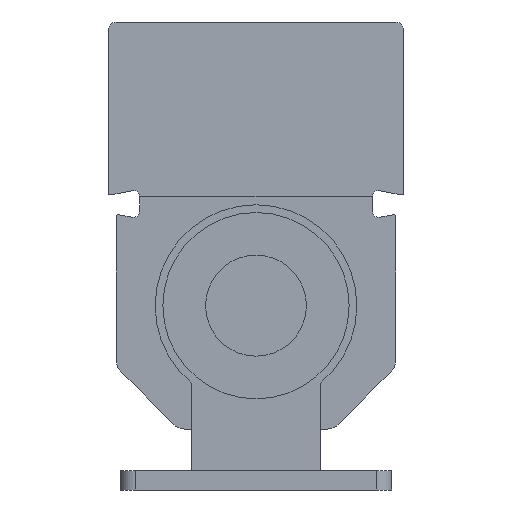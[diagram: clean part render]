
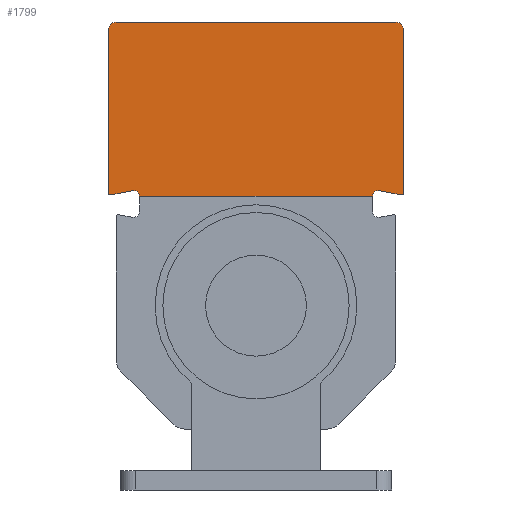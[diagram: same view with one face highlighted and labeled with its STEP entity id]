
A CAD part, front view. The second image highlights one B-rep face of the part: STEP entity #1799.
In plain terms, the highlighted planar face has unit normal (0, -1, 0).
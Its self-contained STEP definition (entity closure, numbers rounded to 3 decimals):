
#58=CIRCLE('',#1889,0.3);
#62=CIRCLE('',#1894,1.6);
#88=CIRCLE('',#1950,0.3);
#90=CIRCLE('',#1953,1.6);
#103=CIRCLE('',#1983,2.);
#109=CIRCLE('',#1994,2.);
#633=ORIENTED_EDGE('',*,*,#919,.F.);
#634=ORIENTED_EDGE('',*,*,#891,.T.);
#635=ORIENTED_EDGE('',*,*,#862,.T.);
#636=ORIENTED_EDGE('',*,*,#889,.T.);
#637=ORIENTED_EDGE('',*,*,#884,.T.);
#638=ORIENTED_EDGE('',*,*,#916,.T.);
#639=ORIENTED_EDGE('',*,*,#669,.T.);
#640=ORIENTED_EDGE('',*,*,#924,.T.);
#641=ORIENTED_EDGE('',*,*,#831,.T.);
#642=ORIENTED_EDGE('',*,*,#802,.T.);
#643=ORIENTED_EDGE('',*,*,#868,.T.);
#644=ORIENTED_EDGE('',*,*,#810,.T.);
#669=EDGE_CURVE('',#928,#927,#1101,.T.);
#802=EDGE_CURVE('',#1037,#1036,#58,.T.);
#810=EDGE_CURVE('',#1045,#1044,#62,.T.);
#831=EDGE_CURVE('',#1058,#1037,#1216,.T.);
#862=EDGE_CURVE('',#1078,#1077,#1237,.T.);
#868=EDGE_CURVE('',#1036,#1045,#1240,.T.);
#884=EDGE_CURVE('',#1089,#1088,#1251,.T.);
#889=EDGE_CURVE('',#1077,#1089,#88,.T.);
#891=EDGE_CURVE('',#1090,#1078,#90,.T.);
#916=EDGE_CURVE('',#1088,#928,#103,.T.);
#919=EDGE_CURVE('',#1090,#1044,#1266,.T.);
#924=EDGE_CURVE('',#927,#1058,#109,.T.);
#927=VERTEX_POINT('',#2541);
#928=VERTEX_POINT('',#2543);
#1036=VERTEX_POINT('',#2827);
#1037=VERTEX_POINT('',#2829);
#1044=VERTEX_POINT('',#2844);
#1045=VERTEX_POINT('',#2846);
#1058=VERTEX_POINT('',#2891);
#1077=VERTEX_POINT('',#2947);
#1078=VERTEX_POINT('',#2949);
#1088=VERTEX_POINT('',#2993);
#1089=VERTEX_POINT('',#2995);
#1090=VERTEX_POINT('',#3006);
#1101=LINE('',#2542,#1269);
#1216=LINE('',#2890,#1384);
#1237=LINE('',#2948,#1405);
#1240=LINE('',#2961,#1408);
#1251=LINE('',#2994,#1419);
#1266=LINE('',#3061,#1434);
#1269=VECTOR('',#2007,1000.);
#1384=VECTOR('',#2296,1000.);
#1405=VECTOR('',#2351,1000.);
#1408=VECTOR('',#2366,1000.);
#1419=VECTOR('',#2407,1000.);
#1434=VECTOR('',#2506,1000.);
#1537=EDGE_LOOP('',(#633,#634,#635,#636,#637,#638,#639,#640,#641,#642,#643,
#644));
#1647=FACE_BOUND('',#1537,.T.);
#1708=PLANE('',#1993);
#1799=ADVANCED_FACE('',(#1647),#1708,.T.);
#1889=AXIS2_PLACEMENT_3D('',#2828,#2241,#2242);
#1894=AXIS2_PLACEMENT_3D('',#2845,#2255,#2256);
#1950=AXIS2_PLACEMENT_3D('',#3002,#2419,#2420);
#1953=AXIS2_PLACEMENT_3D('',#3005,#2425,#2426);
#1983=AXIS2_PLACEMENT_3D('',#3056,#2497,#2498);
#1993=AXIS2_PLACEMENT_3D('',#3068,#2519,#2520);
#1994=AXIS2_PLACEMENT_3D('',#3069,#2521,#2522);
#2007=DIRECTION('',(-1.,0.,0.));
#2241=DIRECTION('',(0.,-1.,0.));
#2242=DIRECTION('',(1.,0.,0.));
#2255=DIRECTION('',(0.,1.,0.));
#2256=DIRECTION('',(1.,0.,0.));
#2296=DIRECTION('',(0.,0.,-1.));
#2351=DIRECTION('',(0.982,0.,-0.191));
#2366=DIRECTION('',(0.982,0.,0.191));
#2407=DIRECTION('',(0.,0.,1.));
#2419=DIRECTION('',(0.,-1.,0.));
#2420=DIRECTION('',(0.,0.,-1.));
#2425=DIRECTION('',(0.,1.,0.));
#2426=DIRECTION('',(1.,0.,0.));
#2497=DIRECTION('',(0.,-1.,0.));
#2498=DIRECTION('',(0.,0.,-1.));
#2506=DIRECTION('',(-1.,0.,0.));
#2519=DIRECTION('',(0.,-1.,0.));
#2520=DIRECTION('',(0.,0.,-1.));
#2521=DIRECTION('',(0.,-1.,0.));
#2522=DIRECTION('',(0.,0.,-1.));
#2541=CARTESIAN_POINT('',(-36.,-609.6,59.15));
#2542=CARTESIAN_POINT('',(36.,-609.6,59.15));
#2543=CARTESIAN_POINT('',(36.,-609.6,59.15));
#2827=CARTESIAN_POINT('',(-37.643,-609.6,14.569));
#2828=CARTESIAN_POINT('',(-37.7,-609.6,14.864));
#2829=CARTESIAN_POINT('',(-38.,-609.6,14.864));
#2844=CARTESIAN_POINT('',(-30.006,-609.6,14.25));
#2845=CARTESIAN_POINT('',(-31.6,-609.6,14.114));
#2846=CARTESIAN_POINT('',(-31.905,-609.6,15.685));
#2890=CARTESIAN_POINT('',(-38.,-609.6,43.75));
#2891=CARTESIAN_POINT('',(-38.,-609.6,57.15));
#2947=CARTESIAN_POINT('',(37.643,-609.6,14.569));
#2948=CARTESIAN_POINT('',(31.905,-609.6,15.685));
#2949=CARTESIAN_POINT('',(31.905,-609.6,15.685));
#2961=CARTESIAN_POINT('',(-37.643,-609.6,14.569));
#2993=CARTESIAN_POINT('',(38.,-609.6,57.15));
#2994=CARTESIAN_POINT('',(38.,-609.6,14.864));
#2995=CARTESIAN_POINT('',(38.,-609.6,14.864));
#3002=CARTESIAN_POINT('',(37.7,-609.6,14.864));
#3005=CARTESIAN_POINT('',(31.6,-609.6,14.114));
#3006=CARTESIAN_POINT('',(30.006,-609.6,14.25));
#3056=CARTESIAN_POINT('',(36.,-609.6,57.15));
#3061=CARTESIAN_POINT('',(36.,-609.6,14.25));
#3068=CARTESIAN_POINT('',(36.,-609.6,43.75));
#3069=CARTESIAN_POINT('',(-36.,-609.6,57.15));
